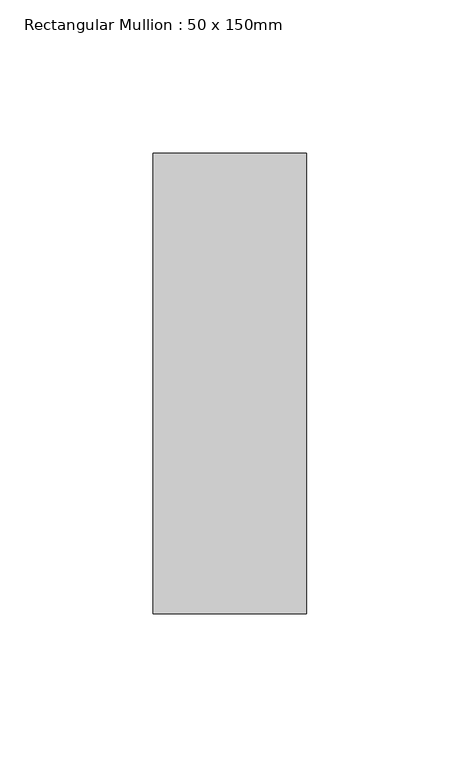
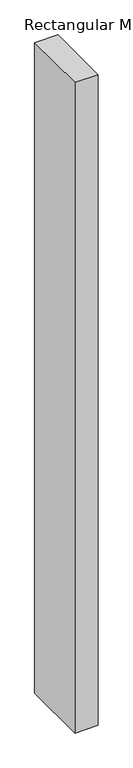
"""IFC4 building model written with IfcOpenShell, lengths in millimetres: member geometry, Rectangular Mullion : 50 x 150mm."""

import ifcopenshell
import ifcopenshell.guid

model = None  # the IFC model being written
_history = None  # IfcOwnerHistory: only IFC2X3 demands one
_inside = {}  # id of a spatial element -> (the spatial element, [elements in it])
_under = {}  # id of a project, library or spatial element -> (it, [spatial elements below it])
_declared = {}  # id of a project -> (the project, [libraries it declares])
_typed = {}  # id of a type object -> (the type object, [elements of that type])
_made_of = {}  # id of a material, layer set ... -> (it, [elements and type objects made of it])


def new_model(schema):
    """Start an empty IFC model of exactly this schema.

    Asked for "IFC4X3", IfcOpenShell would pick the latest addendum, in which some entities
    have other attributes; the version numbers below select the first issue.
    IFC2X3 requires an IfcOwnerHistory on every rooted entity: one is made here for all.
    """
    global model, _history
    if schema == "IFC4X3":
        model = ifcopenshell.file(schema_version=(4, 3, 0, 0))
    else:
        model = ifcopenshell.file(schema=schema)
    _inside.clear()
    _under.clear()
    _declared.clear()
    _typed.clear()
    _made_of.clear()
    _history = None
    if model.schema == "IFC2X3":
        org = make("IfcOrganization", Name="unknown")
        user = make(
            "IfcPersonAndOrganization",
            ThePerson=make("IfcPerson", FamilyName="unknown"),
            TheOrganization=org,
        )
        app = make(
            "IfcApplication",
            ApplicationDeveloper=org,
            Version="unknown",
            ApplicationFullName="unknown",
            ApplicationIdentifier="unknown",
        )
        _history = make(
            "IfcOwnerHistory",
            OwningUser=user,
            OwningApplication=app,
            ChangeAction="ADDED",
            CreationDate=0,
        )
    return model


def make(cls, **values):
    """One entity of the class cls with the attributes given. An attribute that is None is left unset."""
    return model.create_entity(
        cls, **{name: value for name, value in values.items() if value is not None}
    )


def rooted(cls, **values):
    """An entity with a GlobalId (a new one), such as an element, a storey or a relation."""
    return make(cls, GlobalId=ifcopenshell.guid.new(), OwnerHistory=_history, **values)


def si_unit(unit_type, name, prefix=None):
    """IfcSIUnit, for example si_unit("LENGTHUNIT", "METRE", prefix="MILLI")."""
    return make("IfcSIUnit", UnitType=unit_type, Prefix=prefix, Name=name)


def assignment(units):
    """IfcUnitAssignment: the units of a project."""
    return None if units is None else make("IfcUnitAssignment", Units=units)


def point(xyz):
    """IfcCartesianPoint."""
    return None if xyz is None else make("IfcCartesianPoint", Coordinates=xyz)


def direction(xyz):
    """IfcDirection."""
    return None if xyz is None else make("IfcDirection", DirectionRatios=xyz)


def frame(location, z_axis=None, x_axis=None):
    """IfcAxis2Placement3D, a coordinate frame: its origin and axes. An axis left out is left unset."""
    return make(
        "IfcAxis2Placement3D",
        Location=point(location),
        Axis=direction(z_axis),
        RefDirection=direction(x_axis),
    )


def origin():
    """The frame at (0, 0, 0) with its axes left unset."""
    return frame((0.0, 0.0, 0.0))


def place(relative_to, where):
    """IfcLocalPlacement: puts the frame where relative to a parent placement (None: the world)."""
    return make(
        "IfcLocalPlacement", PlacementRelTo=relative_to, RelativePlacement=where
    )


def context(
    kind, dimensions, precision=None, world=None, true_north=None, identifier=None
):
    """IfcGeometricRepresentationContext, for example the 3D "Model" context."""
    return make(
        "IfcGeometricRepresentationContext",
        ContextIdentifier=identifier,
        ContextType=kind,
        CoordinateSpaceDimension=dimensions,
        Precision=precision,
        WorldCoordinateSystem=world,
        TrueNorth=true_north,
    )


def project(units=None, contexts=None):
    """IfcProject with its units and contexts."""
    return rooted(
        "IfcProject",
        Name="project",
        RepresentationContexts=contexts,
        UnitsInContext=assignment(units),
    )


def spatial(cls, under=None, at=None, **own):
    """A site, building, storey or space (cls), placed at a placement, below another one or the project."""
    s = rooted(cls, ObjectPlacement=at, **own)
    if under is not None:
        _under.setdefault(under.id(), (under, []))[1].append(s)
    return s


def polyline(points):
    """IfcPolyline through the points."""
    return make("IfcPolyline", Points=[point(p) for p in points])


def outline(outer, holes=None, kind="AREA"):
    """IfcArbitraryClosedProfileDef: a profile drawn as a closed curve; with holes, ...WithVoids."""
    if holes is None:
        return make("IfcArbitraryClosedProfileDef", ProfileType=kind, OuterCurve=outer)
    return make(
        "IfcArbitraryProfileDefWithVoids",
        ProfileType=kind,
        OuterCurve=outer,
        InnerCurves=holes,
    )


def extrude(swept, where, along, depth):
    """IfcExtrudedAreaSolid: the profile swept, set in the frame where, extruded along a direction by depth."""
    return make(
        "IfcExtrudedAreaSolid",
        SweptArea=swept,
        Position=where,
        ExtrudedDirection=direction(along),
        Depth=depth,
    )


def shape(context_of_items, identifier, shape_type, items):
    """IfcShapeRepresentation: the items that make up one representation, for example the "Body"."""
    return make(
        "IfcShapeRepresentation",
        ContextOfItems=context_of_items,
        RepresentationIdentifier=identifier,
        RepresentationType=shape_type,
        Items=items,
    )


def source(mapping_origin, context_of_items, identifier, shape_type, items):
    """IfcRepresentationMap: a shape defined once, which mapped items show again and again."""
    return make(
        "IfcRepresentationMap",
        MappingOrigin=mapping_origin,
        MappedRepresentation=shape(context_of_items, identifier, shape_type, items),
    )


def transform(
    local_origin,
    x_axis=None,
    y_axis=None,
    z_axis=None,
    scale=None,
    scale2=None,
    scale3=None,
    uniform=True,
):
    """IfcCartesianTransformationOperator3D, or its non-uniform kind. x_axis, y_axis, z_axis: its Axis1, 2, 3."""
    if uniform:
        return make(
            "IfcCartesianTransformationOperator3D",
            Axis1=direction(x_axis),
            Axis2=direction(y_axis),
            LocalOrigin=point(local_origin),
            Scale=scale,
            Axis3=direction(z_axis),
        )
    return make(
        "IfcCartesianTransformationOperator3DnonUniform",
        Axis1=direction(x_axis),
        Axis2=direction(y_axis),
        LocalOrigin=point(local_origin),
        Scale=scale,
        Axis3=direction(z_axis),
        Scale2=scale2,
        Scale3=scale3,
    )


def mapped(mapping_source, mapping_target):
    """IfcMappedItem: shows the shape of a source again, moved by a transform."""
    return make(
        "IfcMappedItem", MappingSource=mapping_source, MappingTarget=mapping_target
    )


def made_of(thing, what):
    """Note that an element or type object is made of a material, layer set ...; save() writes the relation."""
    if what is not None:
        _made_of.setdefault(what.id(), (what, []))[1].append(thing)
    return thing


def element(
    cls,
    number,
    at=None,
    inside=None,
    cuts=None,
    type_object=None,
    material=None,
    context=None,
    identifier="Body",
    shape_type=None,
    held_by="IfcProductDefinitionShape",
    body=None,
    shapes=None,
    **own,
):
    """One element of the class cls, such as IfcWall. Its Tag is "e" and its number.

    at: its placement. inside: the storey or other place that contains it. cuts: it is an
    opening in that element (IfcRelVoidsElement). A single representation is given by context,
    identifier, shape_type and body (its items); several are given by shapes. held_by: the class
    of the entity that holds the representations. save() writes the other relations.
    """
    e = rooted(cls, Tag="e%d" % number, ObjectPlacement=at, **own)
    if body is not None:
        shapes = [shape(context, identifier, shape_type, body)]
    if shapes is not None:
        e.Representation = make(held_by, Representations=shapes)
    if inside is not None:
        _inside.setdefault(inside.id(), (inside, []))[1].append(e)
    if cuts is not None:
        rooted(
            "IfcRelVoidsElement", RelatingBuildingElement=cuts, RelatedOpeningElement=e
        )
    if type_object is not None:
        _typed.setdefault(type_object.id(), (type_object, []))[1].append(e)
    return made_of(e, material)


def aggregate(whole, parts):
    """IfcRelAggregates: a whole, such as a stair, and the parts it consists of."""
    return rooted("IfcRelAggregates", RelatingObject=whole, RelatedObjects=parts)


def save(model, path):
    """Write the relations noted so far, then the file.

    IfcRelAggregates (storeys below a building ...), IfcRelContainedInSpatialStructure (elements
    in a storey), IfcRelDefinesByType, IfcRelAssociatesMaterial and IfcRelDeclares: one each for
    every whole, place, type object, material and project.
    """
    for whole, parts in _under.values():
        aggregate(whole, parts)
    for where, things in _inside.values():
        rooted(
            "IfcRelContainedInSpatialStructure",
            RelatedElements=things,
            RelatingStructure=where,
        )
    for kind, things in _typed.values():
        rooted("IfcRelDefinesByType", RelatedObjects=things, RelatingType=kind)
    for what, things in _made_of.values():
        rooted("IfcRelAssociatesMaterial", RelatedObjects=things, RelatingMaterial=what)
    for by, libraries in _declared.values():
        rooted("IfcRelDeclares", RelatingContext=by, RelatedDefinitions=libraries)
    model.write(path)


def rectangular_mullion_50_x_150mm_8236aad0(model_context):
    return source(origin(), model_context, "Body", "SweptSolid", [
        extrude(outline(polyline([(25.0, 75.0), (25.0, -75.0), (-25.0, -75.0), (-25.0, 75.0), (25.0, 75.0)])), frame((0.0, 0.0, -1485.6), z_axis=(0.0, 0.0, 1.0), x_axis=(1.0, 0.0, 0.0)), (0.0, 0.0, 1.0), 1485.6),
    ])


if __name__ == "__main__":
    model = new_model("IFC4")
    model_context = context("Model", 3, world=origin())
    ifc_project = project(units=[si_unit("LENGTHUNIT", "METRE", prefix="MILLI")], contexts=[model_context])
    site = spatial("IfcSite", under=ifc_project)
    building = spatial("IfcBuilding", under=site)
    placement = place(None, origin())
    rectangular_mullion_50_x_150mm_shape = rectangular_mullion_50_x_150mm_8236aad0(model_context)
    element("IfcMember", 1, ObjectType="Rectangular Mullion : 50 x 150mm", at=placement, inside=building, context=model_context, shape_type="MappedRepresentation", body=[
        mapped(rectangular_mullion_50_x_150mm_shape, transform((0.0, 0.0, 0.0), x_axis=(1.0, 0.0, 0.0), y_axis=(0.0, 1.0, 0.0), z_axis=(0.0, 0.0, 1.0))),
    ])
    save(model, "model.ifc")
